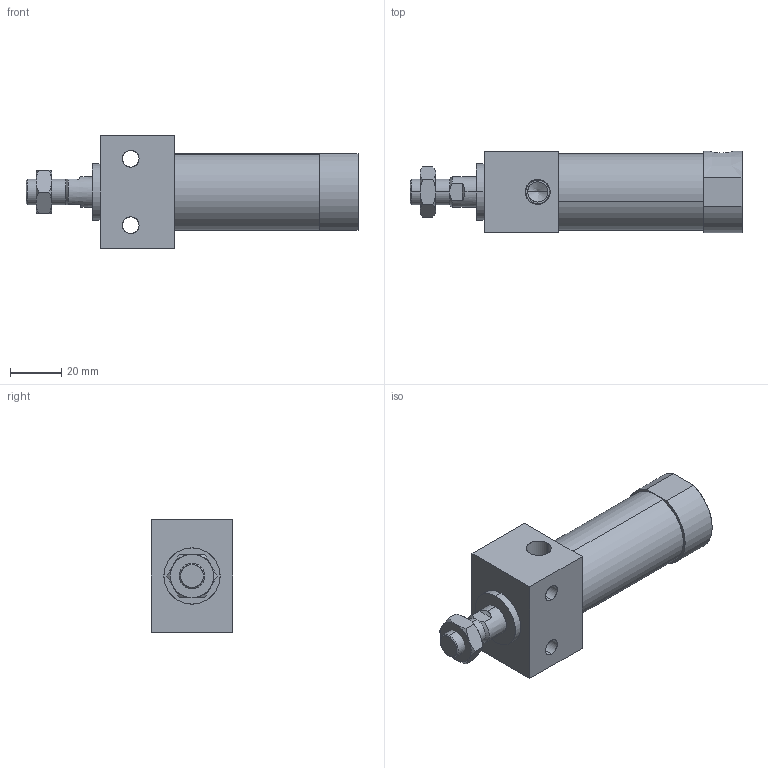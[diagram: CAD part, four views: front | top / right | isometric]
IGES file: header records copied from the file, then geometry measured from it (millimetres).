
Start section: SolidWorks IGES file using analytic representation for surfaces
Global section: file name: C:\Users\Toshiba\Desktop\JGES2-25-25.IGS; native system: SolidWorks 2014; preprocessor: SolidWorks 2014; author: Toshiba; date: 160420.150625; units: millimetre
Bounding box: 130 x 32 x 44 mm (x, y, z)
Surface area: 21397.4 mm2 (no closed solid volume)
Topology: 0 solids, 0 shells, 85 faces, 1540 edges, 1534 vertices
Faces by surface type: bspline 43, revolution 42
